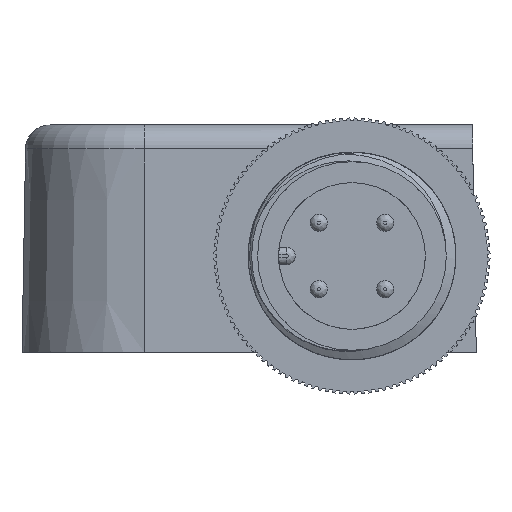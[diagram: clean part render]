
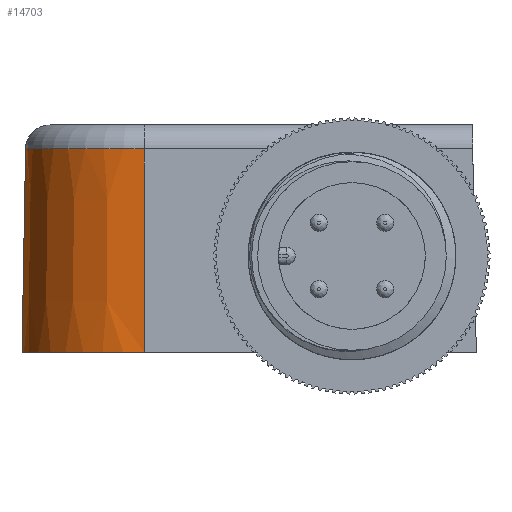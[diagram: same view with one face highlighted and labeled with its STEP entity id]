
A CAD part, left-side view. The second image highlights one B-rep face of the part: STEP entity #14703.
In plain terms, the highlighted conical face has half-angle 1 degrees and reference radius 7 mm.
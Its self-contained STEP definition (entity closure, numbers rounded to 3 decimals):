
#96=CONICAL_SURFACE('',#16198,7.,0.017);
#1299=FACE_OUTER_BOUND('',#2098,.T.);
#2098=EDGE_LOOP('',(#13598,#13599,#13600,#13601));
#3560=LINE('',#27138,#4939);
#3561=LINE('',#27140,#4940);
#4939=VECTOR('',#20518,11.626);
#4940=VECTOR('',#20521,11.626);
#5620=CIRCLE('',#16135,7.);
#5643=CIRCLE('',#16181,6.797);
#7046=VERTEX_POINT('',#26981);
#7048=VERTEX_POINT('',#26984);
#7082=VERTEX_POINT('',#27089);
#7084=VERTEX_POINT('',#27095);
#9187=EDGE_CURVE('',#7048,#7046,#5620,.T.);
#9243=EDGE_CURVE('',#7084,#7082,#5643,.T.);
#9263=EDGE_CURVE('',#7048,#7082,#3560,.T.);
#9264=EDGE_CURVE('',#7046,#7084,#3561,.T.);
#13598=ORIENTED_EDGE('',*,*,#9243,.T.);
#13599=ORIENTED_EDGE('',*,*,#9263,.F.);
#13600=ORIENTED_EDGE('',*,*,#9187,.T.);
#13601=ORIENTED_EDGE('',*,*,#9264,.T.);
#14703=ADVANCED_FACE('',(#1299),#96,.T.);
#16135=AXIS2_PLACEMENT_3D('',#26985,#20345,#20346);
#16181=AXIS2_PLACEMENT_3D('',#27098,#20468,#20469);
#16198=AXIS2_PLACEMENT_3D('',#27139,#20519,#20520);
#20345=DIRECTION('center_axis',(0.,0.,1.));
#20346=DIRECTION('ref_axis',(-1.,0.,0.));
#20468=DIRECTION('center_axis',(0.,0.,
-1.));
#20469=DIRECTION('ref_axis',(-0.707,0.707,0.));
#20518=DIRECTION('',(0.,-0.017,1.));
#20519=DIRECTION('center_axis',(0.,0.,
-1.));
#20520=DIRECTION('ref_axis',(-1.,0.,0.));
#20521=DIRECTION('',(0.017,0.,1.));
#26981=CARTESIAN_POINT('',(-18.,19.,0.));
#26984=CARTESIAN_POINT('',(-11.,26.,0.));
#26985=CARTESIAN_POINT('Origin',(-11.,19.,0.));
#27089=CARTESIAN_POINT('',(-11.,25.797,11.624));
#27095=CARTESIAN_POINT('',(-17.797,19.,11.624));
#27098=CARTESIAN_POINT('Origin',(-11.,19.,11.624));
#27138=CARTESIAN_POINT('',(-11.,26.,0.));
#27139=CARTESIAN_POINT('Origin',(-11.,19.,0.));
#27140=CARTESIAN_POINT('',(-18.,19.,0.));
